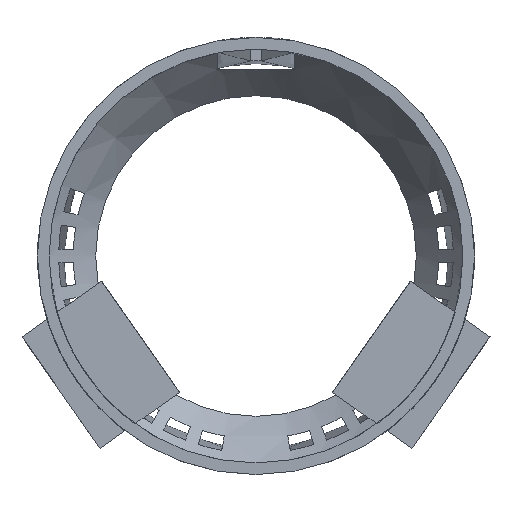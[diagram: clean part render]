
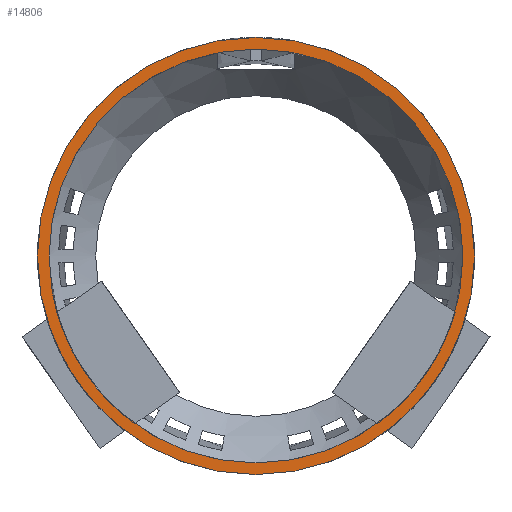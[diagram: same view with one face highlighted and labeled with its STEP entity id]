
A CAD part, left-side view. The second image highlights one B-rep face of the part: STEP entity #14806.
In plain terms, the highlighted planar face has unit normal (-1, 0, 0).
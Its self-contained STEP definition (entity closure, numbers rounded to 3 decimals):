
#21 = EDGE_CURVE('',#22,#22,#24,.T.);
#22 = VERTEX_POINT('',#23);
#23 = CARTESIAN_POINT('',(372.,21.3,0.));
#24 = SURFACE_CURVE('',#25,(#30,#42),.PCURVE_S1.);
#25 = CIRCLE('',#26,21.3);
#26 = AXIS2_PLACEMENT_3D('',#27,#28,#29);
#27 = CARTESIAN_POINT('',(372.,0.,0.));
#28 = DIRECTION('',(1.,0.,0.));
#29 = DIRECTION('',(-0.,1.,0.));
#30 = PCURVE('',#31,#36);
#31 = CYLINDRICAL_SURFACE('',#32,21.3);
#32 = AXIS2_PLACEMENT_3D('',#33,#34,#35);
#33 = CARTESIAN_POINT('',(47.,0.,0.));
#34 = DIRECTION('',(1.,0.,0.));
#35 = DIRECTION('',(-0.,1.,0.));
#36 = DEFINITIONAL_REPRESENTATION('',(#37),#41);
#37 = LINE('',#38,#39);
#38 = CARTESIAN_POINT('',(0.,325.));
#39 = VECTOR('',#40,1.);
#40 = DIRECTION('',(1.,0.));
#41 = ( GEOMETRIC_REPRESENTATION_CONTEXT(2) 
PARAMETRIC_REPRESENTATION_CONTEXT() REPRESENTATION_CONTEXT('2D SPACE',''
  ) );
#42 = PCURVE('',#43,#48);
#43 = PLANE('',#44);
#44 = AXIS2_PLACEMENT_3D('',#45,#46,#47);
#45 = CARTESIAN_POINT('',(372.,-60.,-120.));
#46 = DIRECTION('',(1.,0.,-0.));
#47 = DIRECTION('',(0.,0.,1.));
#48 = DEFINITIONAL_REPRESENTATION('',(#49),#53);
#49 = CIRCLE('',#50,21.3);
#50 = AXIS2_PLACEMENT_2D('',#51,#52);
#51 = CARTESIAN_POINT('',(120.,-60.));
#52 = DIRECTION('',(0.,-1.));
#53 = ( GEOMETRIC_REPRESENTATION_CONTEXT(2) 
PARAMETRIC_REPRESENTATION_CONTEXT() REPRESENTATION_CONTEXT('2D SPACE',''
  ) );
#1978 = CYLINDRICAL_SURFACE('',#1979,22.5);
#1979 = AXIS2_PLACEMENT_3D('',#1980,#1981,#1982);
#1980 = CARTESIAN_POINT('',(47.,0.,0.));
#1981 = DIRECTION('',(1.,0.,0.));
#1982 = DIRECTION('',(-0.,1.,0.));
#2041 = EDGE_CURVE('',#2042,#2042,#2044,.T.);
#2042 = VERTEX_POINT('',#2043);
#2043 = CARTESIAN_POINT('',(372.,22.5,0.));
#2044 = SURFACE_CURVE('',#2045,(#2050,#2057),.PCURVE_S1.);
#2045 = CIRCLE('',#2046,22.5);
#2046 = AXIS2_PLACEMENT_3D('',#2047,#2048,#2049);
#2047 = CARTESIAN_POINT('',(372.,0.,0.));
#2048 = DIRECTION('',(1.,0.,0.));
#2049 = DIRECTION('',(-0.,1.,0.));
#2050 = PCURVE('',#1978,#2051);
#2051 = DEFINITIONAL_REPRESENTATION('',(#2052),#2056);
#2052 = LINE('',#2053,#2054);
#2053 = CARTESIAN_POINT('',(0.,325.));
#2054 = VECTOR('',#2055,1.);
#2055 = DIRECTION('',(1.,0.));
#2056 = ( GEOMETRIC_REPRESENTATION_CONTEXT(2) 
PARAMETRIC_REPRESENTATION_CONTEXT() REPRESENTATION_CONTEXT('2D SPACE',''
  ) );
#2057 = PCURVE('',#43,#2058);
#2058 = DEFINITIONAL_REPRESENTATION('',(#2059),#2063);
#2059 = CIRCLE('',#2060,22.5);
#2060 = AXIS2_PLACEMENT_2D('',#2061,#2062);
#2061 = CARTESIAN_POINT('',(120.,-60.));
#2062 = DIRECTION('',(0.,-1.));
#2063 = ( GEOMETRIC_REPRESENTATION_CONTEXT(2) 
PARAMETRIC_REPRESENTATION_CONTEXT() REPRESENTATION_CONTEXT('2D SPACE',''
  ) );
#14806 = ADVANCED_FACE('',(#14807,#14810),#43,.F.);
#14807 = FACE_BOUND('',#14808,.F.);
#14808 = EDGE_LOOP('',(#14809));
#14809 = ORIENTED_EDGE('',*,*,#2041,.T.);
#14810 = FACE_BOUND('',#14811,.F.);
#14811 = EDGE_LOOP('',(#14812));
#14812 = ORIENTED_EDGE('',*,*,#21,.F.);
